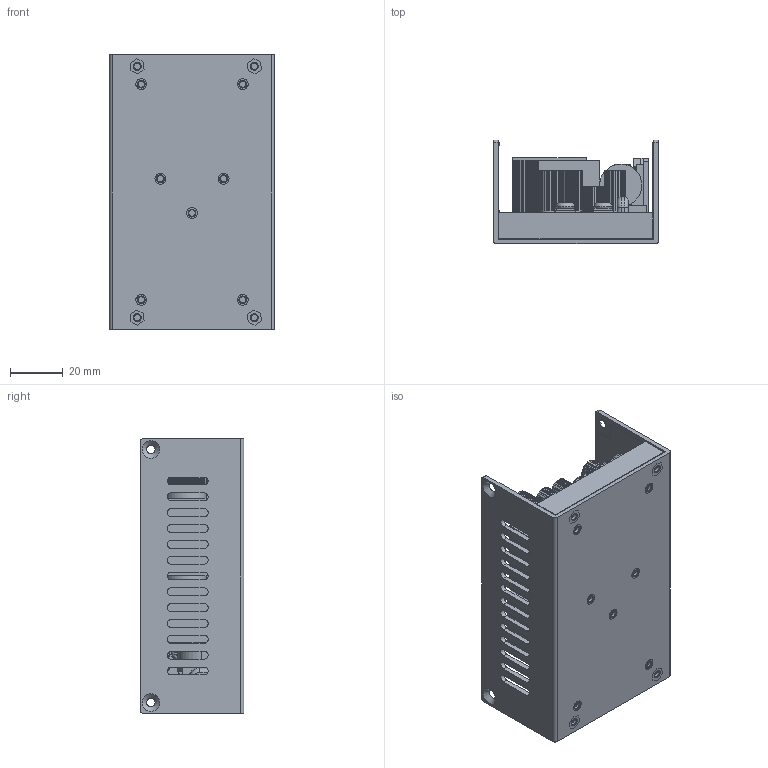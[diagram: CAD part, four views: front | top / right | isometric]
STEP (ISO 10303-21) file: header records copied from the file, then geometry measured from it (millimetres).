
FILE_DESCRIPTION(/* description */ (''),/* implementation_level */ '2;1');
FILE_NAME(/* name */ 'D:\Inventor\ARF240\ARF240U.stp',/* time_stamp */ '2020-06-08T11:04:09+08:00',/* author */ ('peter'),/* organization */ (''),/* preprocessor_version */ 'ST-DEVELOPER v15.2',/* originating_system */ 'Autodesk Inventor 2014',/* authorisation */ '');
FILE_SCHEMA (('AUTOMOTIVE_DESIGN { 1 0 10303 214 3 1 1 }'));
Length unit declared in the file: millimetre
Products named in the file (21): MQF240; 8-22; R377ARF24001; R380MARF24001; M3-1; R378ARF24002; PCB; 2S+1 PIN; PCB-10AM4; PCB-10BM4; PCB-10M4.ipt; R378ARF24001; BD1; TO-220FP; SCREW CH_W  M3_6mm; X1; NTC1 _ 10mm; VR; Y - C; ARF240U
Bounding box: 62.5 x 39.2 x 104 mm (x, y, z)
Volume: 111044.1 mm3; surface area: 94057.5 mm2
Topology: 54 solids, 56 shells, 2176 faces, 5776 edges, 3773 vertices
Faces by surface type: plane 1455, cylinder 319, bspline 251, cone 85, torus 58, sphere 8
Full cylindrical faces by diameter (mm): 0.051 x2, 0.45 x3, 0.5 x1, 0.6 x12, 0.8 x4, 1 x4, 1.85 x2, 2.459 x13, 2.5 x2, 3 x19, 3.1 x6, 3.2 x5, 3.242 x2, 3.7 x2, 4 x8, 4.1 x9, 5.8 x6, 16 x1
Entity records: 50197 total; most frequent: CARTESIAN_POINT 11347, ORIENTED_EDGE 8028, DIRECTION 6916, EDGE_CURVE 4014, LINE 3162, VECTOR 3162, VERTEX_POINT 2689, AXIS2_PLACEMENT_3D 1877
